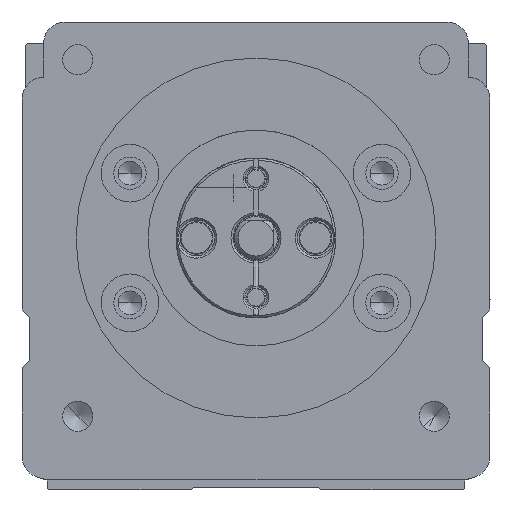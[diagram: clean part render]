
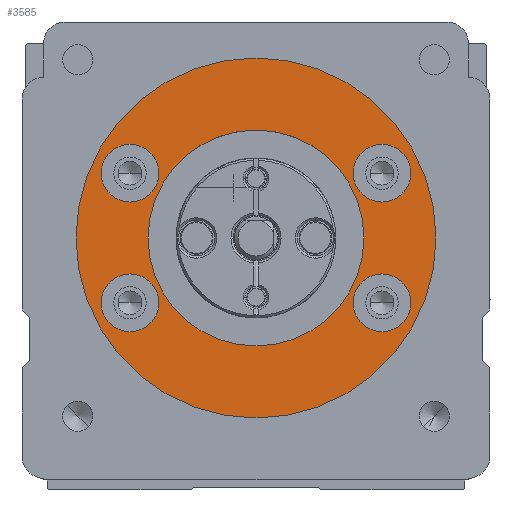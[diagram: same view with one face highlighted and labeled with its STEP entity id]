
A CAD part, front view. The second image highlights one B-rep face of the part: STEP entity #3585.
In plain terms, the highlighted planar face has unit normal (0, -1, 0).
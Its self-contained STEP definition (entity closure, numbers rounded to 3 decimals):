
#3585=ADVANCED_FACE('',(#8870,#8871,#8872,#8873,#8874,#8875),#8876,.F.);
#8870=FACE_BOUND('',#16627,.T.);
#8871=FACE_BOUND('',#16628,.T.);
#8872=FACE_BOUND('',#16629,.T.);
#8873=FACE_BOUND('',#16630,.T.);
#8874=FACE_BOUND('',#16631,.T.);
#8875=FACE_OUTER_BOUND('',#16632,.T.);
#8876=PLANE('',#16633);
#16627=EDGE_LOOP('',(#26456,#26457));
#16628=EDGE_LOOP('',(#26458,#26459));
#16629=EDGE_LOOP('',(#26460,#26461));
#16630=EDGE_LOOP('',(#26462,#26463));
#16631=EDGE_LOOP('',(#26464,#26465));
#16632=EDGE_LOOP('',(#26466,#26467));
#16633=AXIS2_PLACEMENT_3D('',#26468,#26469,#26470);
#26456=ORIENTED_EDGE('',*,*,#46955,.T.);
#26457=ORIENTED_EDGE('',*,*,#46956,.T.);
#26458=ORIENTED_EDGE('',*,*,#46957,.T.);
#26459=ORIENTED_EDGE('',*,*,#46958,.T.);
#26460=ORIENTED_EDGE('',*,*,#46959,.T.);
#26461=ORIENTED_EDGE('',*,*,#46960,.T.);
#26462=ORIENTED_EDGE('',*,*,#46961,.T.);
#26463=ORIENTED_EDGE('',*,*,#45609,.T.);
#26464=ORIENTED_EDGE('',*,*,#46962,.T.);
#26465=ORIENTED_EDGE('',*,*,#46963,.T.);
#26466=ORIENTED_EDGE('',*,*,#46964,.T.);
#26467=ORIENTED_EDGE('',*,*,#46965,.T.);
#26468=CARTESIAN_POINT('',(300.,90.,0.));
#26469=DIRECTION('',(0.,1.0,0.));
#26470=DIRECTION('',(1.0,0.,0.));
#45609=EDGE_CURVE('',#54109,#54113,#54115,.T.);
#46955=EDGE_CURVE('',#56502,#56503,#56504,.T.);
#46956=EDGE_CURVE('',#56503,#56502,#56505,.T.);
#46957=EDGE_CURVE('',#56506,#56507,#56508,.T.);
#46958=EDGE_CURVE('',#56507,#56506,#56509,.T.);
#46959=EDGE_CURVE('',#56510,#56511,#56512,.T.);
#46960=EDGE_CURVE('',#56511,#56510,#56513,.T.);
#46961=EDGE_CURVE('',#54113,#54109,#56514,.T.);
#46962=EDGE_CURVE('',#56515,#56516,#56517,.T.);
#46963=EDGE_CURVE('',#56516,#56515,#56518,.T.);
#46964=EDGE_CURVE('',#56519,#56520,#56521,.T.);
#46965=EDGE_CURVE('',#56520,#56519,#56522,.T.);
#54109=VERTEX_POINT('',#66506);
#54113=VERTEX_POINT('',#66511);
#54115=CIRCLE('',#66514,4.0);
#56502=VERTEX_POINT('',#69861);
#56503=VERTEX_POINT('',#69862);
#56504=CIRCLE('',#69863,4.0);
#56505=CIRCLE('',#69864,4.0);
#56506=VERTEX_POINT('',#69865);
#56507=VERTEX_POINT('',#69866);
#56508=CIRCLE('',#69867,4.0);
#56509=CIRCLE('',#69868,4.0);
#56510=VERTEX_POINT('',#69869);
#56511=VERTEX_POINT('',#69870);
#56512=CIRCLE('',#69871,4.0);
#56513=CIRCLE('',#69872,4.0);
#56514=CIRCLE('',#69873,4.0);
#56515=VERTEX_POINT('',#69874);
#56516=VERTEX_POINT('',#69875);
#56517=CIRCLE('',#69876,15.0);
#56518=CIRCLE('',#69877,15.0);
#56519=VERTEX_POINT('',#69878);
#56520=VERTEX_POINT('',#69879);
#56521=CIRCLE('',#69880,25.0);
#56522=CIRCLE('',#69881,25.0);
#66506=CARTESIAN_POINT('',(313.5,90.,9.));
#66511=CARTESIAN_POINT('',(321.5,90.,9.));
#66514=AXIS2_PLACEMENT_3D('',#84235,#84236,#84237);
#69861=CARTESIAN_POINT('',(286.5,90.,-9.));
#69862=CARTESIAN_POINT('',(278.5,90.,-9.));
#69863=AXIS2_PLACEMENT_3D('',#86064,#86065,#86066);
#69864=AXIS2_PLACEMENT_3D('',#86067,#86068,#86069);
#69865=CARTESIAN_POINT('',(321.5,90.,-9.));
#69866=CARTESIAN_POINT('',(313.5,90.,-9.));
#69867=AXIS2_PLACEMENT_3D('',#86070,#86071,#86072);
#69868=AXIS2_PLACEMENT_3D('',#86073,#86074,#86075);
#69869=CARTESIAN_POINT('',(286.5,90.,9.));
#69870=CARTESIAN_POINT('',(278.5,90.,9.));
#69871=AXIS2_PLACEMENT_3D('',#86076,#86077,#86078);
#69872=AXIS2_PLACEMENT_3D('',#86079,#86080,#86081);
#69873=AXIS2_PLACEMENT_3D('',#86082,#86083,#86084);
#69874=CARTESIAN_POINT('',(285.,90.,0.));
#69875=CARTESIAN_POINT('',(315.,90.,0.));
#69876=AXIS2_PLACEMENT_3D('',#86085,#86086,#86087);
#69877=AXIS2_PLACEMENT_3D('',#86088,#86089,#86090);
#69878=CARTESIAN_POINT('',(325.,90.,0.));
#69879=CARTESIAN_POINT('',(275.,90.,0.));
#69880=AXIS2_PLACEMENT_3D('',#86091,#86092,#86093);
#69881=AXIS2_PLACEMENT_3D('',#86094,#86095,#86096);
#84235=CARTESIAN_POINT('',(317.5,90.,9.));
#84236=DIRECTION('',(0.,1.0,0.));
#84237=DIRECTION('',(-1.0,0.,0.));
#86064=CARTESIAN_POINT('',(282.5,90.,-9.));
#86065=DIRECTION('',(0.,1.0,0.));
#86066=DIRECTION('',(-1.0,0.,0.));
#86067=CARTESIAN_POINT('',(282.5,90.,-9.));
#86068=DIRECTION('',(0.,1.0,0.));
#86069=DIRECTION('',(-1.0,0.,0.));
#86070=CARTESIAN_POINT('',(317.5,90.,-9.));
#86071=DIRECTION('',(0.,1.0,0.));
#86072=DIRECTION('',(-1.0,0.,0.));
#86073=CARTESIAN_POINT('',(317.5,90.,-9.));
#86074=DIRECTION('',(0.,1.0,0.));
#86075=DIRECTION('',(-1.0,0.,0.));
#86076=CARTESIAN_POINT('',(282.5,90.,9.));
#86077=DIRECTION('',(0.,1.0,0.));
#86078=DIRECTION('',(-1.0,0.,0.));
#86079=CARTESIAN_POINT('',(282.5,90.,9.));
#86080=DIRECTION('',(0.,1.0,0.));
#86081=DIRECTION('',(-1.0,0.,0.));
#86082=CARTESIAN_POINT('',(317.5,90.,9.));
#86083=DIRECTION('',(0.,1.0,0.));
#86084=DIRECTION('',(-1.0,0.,0.));
#86085=CARTESIAN_POINT('',(300.,90.,0.));
#86086=DIRECTION('',(0.,1.0,0.));
#86087=DIRECTION('',(1.0,0.,0.));
#86088=CARTESIAN_POINT('',(300.,90.,0.));
#86089=DIRECTION('',(0.,1.0,0.));
#86090=DIRECTION('',(1.0,0.,0.));
#86091=CARTESIAN_POINT('',(300.,90.,0.));
#86092=DIRECTION('',(0.,-1.0,0.));
#86093=DIRECTION('',(1.0,0.,0.));
#86094=CARTESIAN_POINT('',(300.,90.,0.));
#86095=DIRECTION('',(0.,-1.0,0.));
#86096=DIRECTION('',(1.0,0.,0.));
